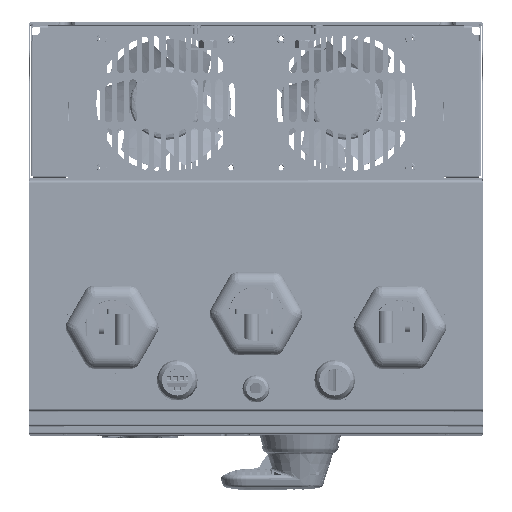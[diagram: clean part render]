
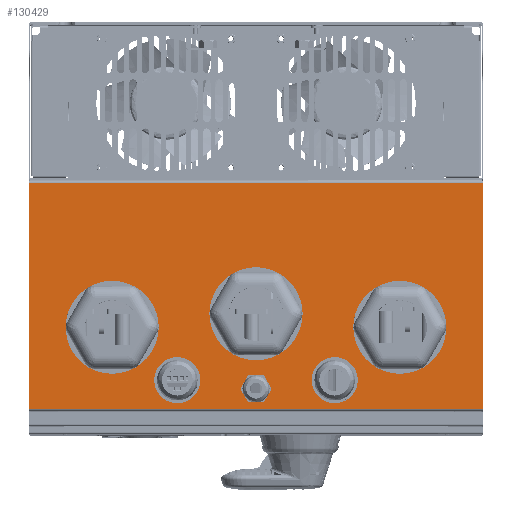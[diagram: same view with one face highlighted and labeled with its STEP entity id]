
A CAD part, top view. The second image highlights one B-rep face of the part: STEP entity #130429.
In plain terms, the highlighted planar face has unit normal (0, 0, 1) as drawn and (-1, 0, 0) by its records, which use the part's own axes.
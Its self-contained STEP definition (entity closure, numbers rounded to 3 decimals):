
#125220=DIRECTION('',(0.,0.,1.));
#125221=VECTOR('',#125220,370.);
#125222=CARTESIAN_POINT('',(-395.2,2.,-185.));
#125223=LINE('',#125222,#125221);
#125643=DIRECTION('',(0.,0.,1.));
#125644=VECTOR('',#125643,370.);
#125645=CARTESIAN_POINT('',(-395.2,185.8,-185.));
#125646=LINE('',#125645,#125644);
#125652=DIRECTION('',(0.,1.,0.));
#125653=VECTOR('',#125652,183.8);
#125654=CARTESIAN_POINT('',(-395.2,2.,-185.));
#125655=LINE('',#125654,#125653);
#125656=DIRECTION('',(0.,-1.,0.));
#125657=VECTOR('',#125656,183.8);
#125658=CARTESIAN_POINT('',(-395.2,185.8,185.));
#125659=LINE('',#125658,#125657);
#125660=CARTESIAN_POINT('',(-395.2,119.782,117.));
#125661=DIRECTION('',(-1.,0.,0.));
#125662=DIRECTION('',(0.,0.,-1.));
#125663=AXIS2_PLACEMENT_3D('',#125660,#125661,#125662);
#125665=CARTESIAN_POINT('',(-395.2,119.782,117.));
#125666=DIRECTION('',(-1.,0.,0.));
#125667=DIRECTION('',(0.,0.,1.));
#125668=AXIS2_PLACEMENT_3D('',#125665,#125666,#125667);
#125670=CARTESIAN_POINT('',(-395.2,108.8,0.));
#125671=DIRECTION('',(-1.,0.,0.));
#125672=DIRECTION('',(0.,0.,-1.));
#125673=AXIS2_PLACEMENT_3D('',#125670,#125671,#125672);
#125675=CARTESIAN_POINT('',(-395.2,108.8,0.));
#125676=DIRECTION('',(-1.,0.,0.));
#125677=DIRECTION('',(0.,0.,1.));
#125678=AXIS2_PLACEMENT_3D('',#125675,#125676,#125677);
#125680=CARTESIAN_POINT('',(-395.2,119.8,-117.));
#125681=DIRECTION('',(-1.,0.,0.));
#125682=DIRECTION('',(0.,0.,-1.));
#125683=AXIS2_PLACEMENT_3D('',#125680,#125681,#125682);
#125685=CARTESIAN_POINT('',(-395.2,119.8,-117.));
#125686=DIRECTION('',(-1.,0.,0.));
#125687=DIRECTION('',(0.,0.,1.));
#125688=AXIS2_PLACEMENT_3D('',#125685,#125686,#125687);
#125690=CARTESIAN_POINT('',(-395.2,162.8,64.));
#125691=DIRECTION('',(-1.,0.,0.));
#125692=DIRECTION('',(0.,0.,-1.));
#125693=AXIS2_PLACEMENT_3D('',#125690,#125691,#125692);
#125695=CARTESIAN_POINT('',(-395.2,162.8,64.));
#125696=DIRECTION('',(-1.,0.,0.));
#125697=DIRECTION('',(0.,0.,1.));
#125698=AXIS2_PLACEMENT_3D('',#125695,#125696,#125697);
#125700=CARTESIAN_POINT('',(-395.2,169.8,0.));
#125701=DIRECTION('',(-1.,0.,0.));
#125702=DIRECTION('',(0.,0.,-1.));
#125703=AXIS2_PLACEMENT_3D('',#125700,#125701,#125702);
#125705=CARTESIAN_POINT('',(-395.2,169.8,0.));
#125706=DIRECTION('',(-1.,0.,0.));
#125707=DIRECTION('',(0.,0.,1.));
#125708=AXIS2_PLACEMENT_3D('',#125705,#125706,#125707);
#125710=CARTESIAN_POINT('',(-395.2,162.8,-64.));
#125711=DIRECTION('',(-1.,0.,0.));
#125712=DIRECTION('',(0.,0.,-1.));
#125713=AXIS2_PLACEMENT_3D('',#125710,#125711,#125712);
#125715=CARTESIAN_POINT('',(-395.2,162.8,-64.));
#125716=DIRECTION('',(-1.,0.,0.));
#125717=DIRECTION('',(0.,0.,1.));
#125718=AXIS2_PLACEMENT_3D('',#125715,#125716,#125717);
#127844=CARTESIAN_POINT('',(-395.2,185.8,185.));
#127845=VERTEX_POINT('',#127844);
#127846=CARTESIAN_POINT('',(-395.2,185.8,-185.));
#127847=VERTEX_POINT('',#127846);
#127908=CARTESIAN_POINT('',(-395.2,2.,185.));
#127910=VERTEX_POINT('',#127908);
#127916=CARTESIAN_POINT('',(-395.2,2.,-185.));
#127918=VERTEX_POINT('',#127916);
#128152=CARTESIAN_POINT('',(-395.2,119.782,85.25));
#128153=CARTESIAN_POINT('',(-395.2,119.782,148.75));
#128154=VERTEX_POINT('',#128152);
#128155=VERTEX_POINT('',#128153);
#128156=CARTESIAN_POINT('',(-395.2,108.8,-31.75));
#128157=CARTESIAN_POINT('',(-395.2,108.8,31.75));
#128158=VERTEX_POINT('',#128156);
#128159=VERTEX_POINT('',#128157);
#128160=CARTESIAN_POINT('',(-395.2,119.8,-148.75));
#128161=CARTESIAN_POINT('',(-395.2,119.8,-85.25));
#128162=VERTEX_POINT('',#128160);
#128163=VERTEX_POINT('',#128161);
#128384=CARTESIAN_POINT('',(-395.2,162.8,51.25));
#128385=CARTESIAN_POINT('',(-395.2,162.8,76.75));
#128386=VERTEX_POINT('',#128384);
#128387=VERTEX_POINT('',#128385);
#128416=CARTESIAN_POINT('',(-395.2,169.8,-8.25));
#128417=CARTESIAN_POINT('',(-395.2,169.8,8.25));
#128418=VERTEX_POINT('',#128416);
#128419=VERTEX_POINT('',#128417);
#128420=CARTESIAN_POINT('',(-395.2,162.8,-76.75));
#128421=CARTESIAN_POINT('',(-395.2,162.8,-51.25));
#128422=VERTEX_POINT('',#128420);
#128423=VERTEX_POINT('',#128421);
#130380=CARTESIAN_POINT('',(-395.2,0.,183.5));
#130381=DIRECTION('',(-1.,0.,0.));
#130382=DIRECTION('',(0.,0.,1.));
#130383=AXIS2_PLACEMENT_3D('',#130380,#130381,#130382);
#130384=PLANE('',#130383);
#130385=ORIENTED_EDGE('',*,*,#129783,.F.);
#130387=ORIENTED_EDGE('',*,*,#130386,.T.);
#130388=ORIENTED_EDGE('',*,*,#130373,.T.);
#130390=ORIENTED_EDGE('',*,*,#130389,.T.);
#130391=EDGE_LOOP('',(#130385,#130387,#130388,#130390));
#130392=FACE_OUTER_BOUND('',#130391,.F.);
#130394=ORIENTED_EDGE('',*,*,#130393,.T.);
#130396=ORIENTED_EDGE('',*,*,#130395,.T.);
#130397=EDGE_LOOP('',(#130394,#130396));
#130398=FACE_BOUND('',#130397,.F.);
#130400=ORIENTED_EDGE('',*,*,#130399,.T.);
#130402=ORIENTED_EDGE('',*,*,#130401,.T.);
#130403=EDGE_LOOP('',(#130400,#130402));
#130404=FACE_BOUND('',#130403,.F.);
#130406=ORIENTED_EDGE('',*,*,#130405,.T.);
#130408=ORIENTED_EDGE('',*,*,#130407,.T.);
#130409=EDGE_LOOP('',(#130406,#130408));
#130410=FACE_BOUND('',#130409,.F.);
#130412=ORIENTED_EDGE('',*,*,#130411,.T.);
#130414=ORIENTED_EDGE('',*,*,#130413,.T.);
#130415=EDGE_LOOP('',(#130412,#130414));
#130416=FACE_BOUND('',#130415,.F.);
#130418=ORIENTED_EDGE('',*,*,#130417,.T.);
#130420=ORIENTED_EDGE('',*,*,#130419,.T.);
#130421=EDGE_LOOP('',(#130418,#130420));
#130422=FACE_BOUND('',#130421,.F.);
#130424=ORIENTED_EDGE('',*,*,#130423,.T.);
#130426=ORIENTED_EDGE('',*,*,#130425,.T.);
#130427=EDGE_LOOP('',(#130424,#130426));
#130428=FACE_BOUND('',#130427,.F.);
#130429=ADVANCED_FACE('',(#130392,#130398,#130404,#130410,#130416,#130422,
#130428),#130384,.T.);
#125664=CIRCLE('',#125663,31.75);
#125669=CIRCLE('',#125668,31.75);
#125674=CIRCLE('',#125673,31.75);
#125679=CIRCLE('',#125678,31.75);
#125684=CIRCLE('',#125683,31.75);
#125689=CIRCLE('',#125688,31.75);
#125694=CIRCLE('',#125693,12.75);
#125699=CIRCLE('',#125698,12.75);
#125704=CIRCLE('',#125703,8.25);
#125709=CIRCLE('',#125708,8.25);
#125714=CIRCLE('',#125713,12.75);
#125719=CIRCLE('',#125718,12.75);
#129783=EDGE_CURVE('',#127918,#127910,#125223,.T.);
#130373=EDGE_CURVE('',#127847,#127845,#125646,.T.);
#130386=EDGE_CURVE('',#127918,#127847,#125655,.T.);
#130389=EDGE_CURVE('',#127845,#127910,#125659,.T.);
#130393=EDGE_CURVE('',#128154,#128155,#125664,.T.);
#130395=EDGE_CURVE('',#128155,#128154,#125669,.T.);
#130399=EDGE_CURVE('',#128158,#128159,#125674,.T.);
#130401=EDGE_CURVE('',#128159,#128158,#125679,.T.);
#130405=EDGE_CURVE('',#128162,#128163,#125684,.T.);
#130407=EDGE_CURVE('',#128163,#128162,#125689,.T.);
#130411=EDGE_CURVE('',#128386,#128387,#125694,.T.);
#130413=EDGE_CURVE('',#128387,#128386,#125699,.T.);
#130417=EDGE_CURVE('',#128418,#128419,#125704,.T.);
#130419=EDGE_CURVE('',#128419,#128418,#125709,.T.);
#130423=EDGE_CURVE('',#128422,#128423,#125714,.T.);
#130425=EDGE_CURVE('',#128423,#128422,#125719,.T.);
